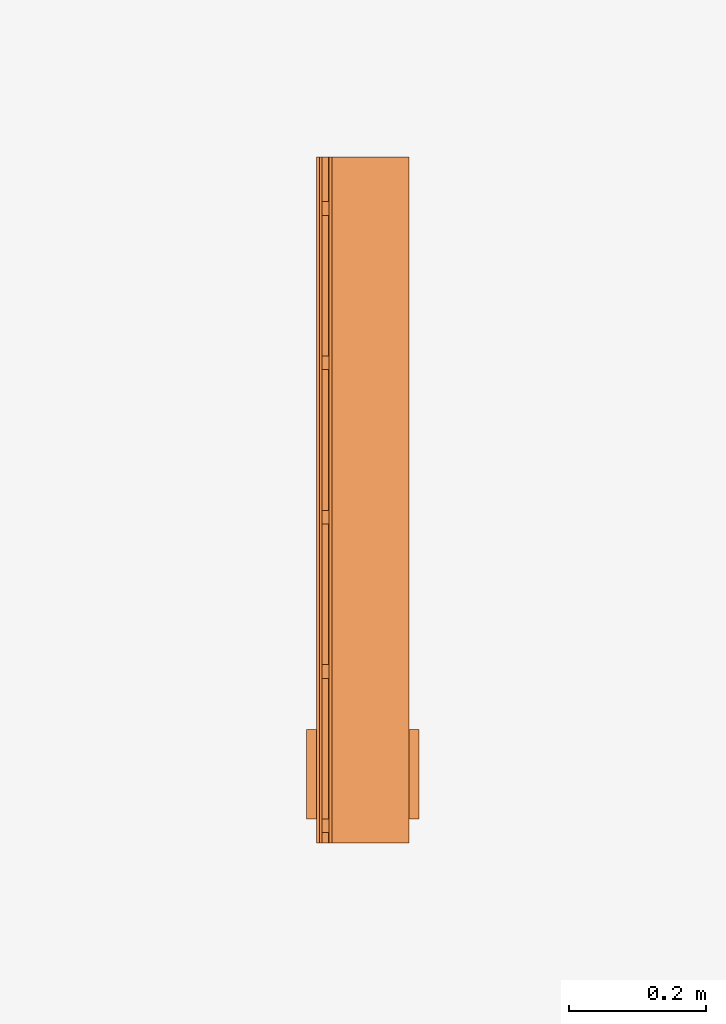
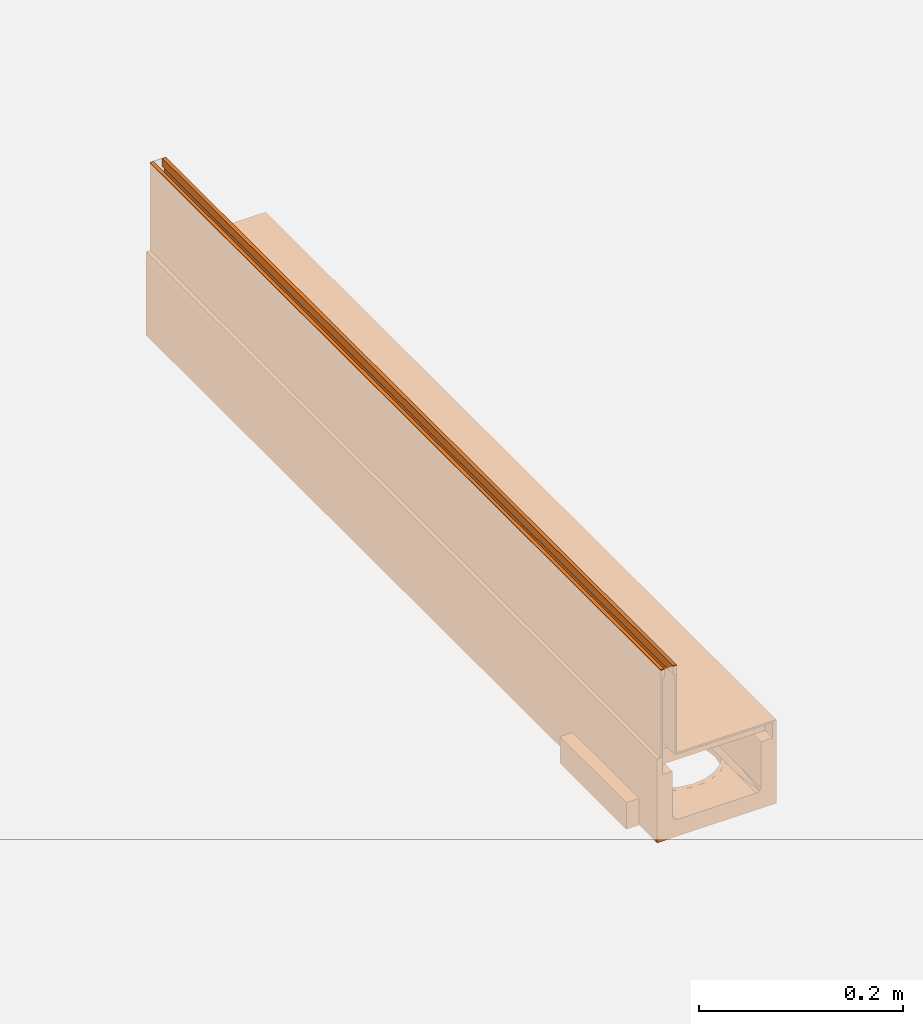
# One storey, part 2 of 2: 1 proxy.
"""IFC2X3 building model written with IfcOpenShell, lengths in millimetres."""

from ifc_helpers import new_model, entity, si_unit, converted_unit, direction, frame, origin, place, context, subcontext, project, spatial, faceted_brep, source, transform, mapped, material, material_list, element, save


model = new_model("IFC2X3")

# Units and contexts
model_context = context("Model", 3, precision=1e-06, world=origin(), true_north=direction((2.0, 6.12303176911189e-17, 1.0)))
context_of_model = context(None, 3, precision=1e-06, world=origin(), true_north=direction((2.0, 6.12303176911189e-17, 1.0)))
body_context = subcontext(model_context, "Body", "Model", "MODEL_VIEW")
ifc_project = project(units=[si_unit("LENGTHUNIT", "METRE", prefix="MILLI"), si_unit("AREAUNIT", "SQUARE_METRE", prefix="MILLI"), si_unit("VOLUMEUNIT", "CUBIC_METRE", prefix="MILLI"), converted_unit("PLANEANGLEUNIT", "DEGREE", entity("IfcRatioMeasure", 0.0174532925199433), si_unit("PLANEANGLEUNIT", "RADIAN"), dimensions=[0, 0, 0, 0, 0, 0, 0]), si_unit("TIMEUNIT", "SECOND")], contexts=[model_context, context_of_model])

# Site, building, storey
site_placement = place(None, origin())
site = spatial("IfcSite", under=ifc_project, at=site_placement, Name="Default", CompositionType="ELEMENT")
building_placement = place(site_placement, origin())
building = spatial("IfcBuilding", under=site, at=building_placement, CompositionType="ELEMENT")
storey_placement = place(building_placement, origin())
storey = spatial("IfcBuildingStorey", under=building, at=storey_placement, Name="Level 1", CompositionType="ELEMENT", Elevation=0.0)

# Proxy
ifc_material_1 = material(Name="Stainless Steel (F)")
ifc_material_2 = material(Name="Plastic, Opaque Black")
ifc_material_3 = material(Name="Vienite® Synthetic Resin Concrete")
ifc_material_list = material_list([ifc_material_1, ifc_material_2, ifc_material_3])
shared_shape = source(origin(), body_context, "Body", "Brep", [
    faceted_brep([(63.2499999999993, 15.0, -107.0), (63.2499999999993, 17.0, -109.0), (63.2499999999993, 33.0, -109.0), (63.2499999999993, 35.0, -107.0), (63.2499999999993, 17.0, -123.499999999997), (63.2499999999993, 15.0, -125.499999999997), (63.2499999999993, 33.0, -123.499999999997), (63.2499999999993, 35.0, -125.499999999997), (-61.2500000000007, 15.0, -125.499999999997), (-61.2500000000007, 17.0, -123.499999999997), (-61.2500000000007, 33.0, -123.499999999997), (-61.2500000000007, 35.0, -125.499999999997), (-61.2500000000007, 17.0, -109.0), (-61.2500000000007, 15.0, -107.0), (-61.2500000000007, 33.0, -109.0), (-61.2500000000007, 35.0, -107.0)], [[[0, 1, 2, 3]], [[4, 1, 0, 5]], [[3, 2, 6, 7]], [[6, 4, 5, 7]], [[8, 9, 10, 11]], [[12, 9, 8, 13]], [[11, 10, 14, 15]], [[14, 12, 13, 15]], [[5, 0, 13, 8]], [[7, 5, 8, 11]], [[3, 7, 11, 15]], [[0, 3, 15, 13]], [[1, 4, 9, 12]], [[14, 2, 1, 12]], [[6, 2, 14, 10]], [[9, 4, 6, 10]]]),
    faceted_brep([(63.2499999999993, 240.0, -107.0), (63.2499999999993, 242.0, -109.0), (63.2499999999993, 258.0, -109.0), (63.2499999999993, 260.0, -107.0), (63.2499999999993, 242.0, -123.499999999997), (63.2499999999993, 240.0, -125.499999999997), (63.2499999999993, 258.0, -123.499999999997), (63.2499999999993, 260.0, -125.499999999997), (-61.2500000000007, 240.0, -125.499999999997), (-61.2500000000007, 242.0, -123.499999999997), (-61.2500000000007, 258.0, -123.499999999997), (-61.2500000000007, 260.0, -125.499999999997), (-61.2500000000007, 242.0, -109.0), (-61.2500000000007, 240.0, -107.0), (-61.2500000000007, 258.0, -109.0), (-61.2500000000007, 260.0, -107.0)], [[[0, 1, 2, 3]], [[4, 1, 0, 5]], [[3, 2, 6, 7]], [[6, 4, 5, 7]], [[8, 9, 10, 11]], [[12, 9, 8, 13]], [[11, 10, 14, 15]], [[14, 12, 13, 15]], [[5, 0, 13, 8]], [[7, 5, 8, 11]], [[3, 7, 11, 15]], [[0, 3, 15, 13]], [[1, 4, 9, 12]], [[2, 1, 12, 14]], [[6, 2, 14, 10]], [[4, 6, 10, 9]]]),
    faceted_brep([(63.2499999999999, 465.0, -107.0), (63.2499999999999, 467.0, -109.0), (63.2499999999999, 483.0, -109.0), (63.2499999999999, 485.0, -107.0), (63.2499999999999, 467.0, -123.499999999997), (63.2499999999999, 465.0, -125.499999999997), (63.2499999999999, 483.0, -123.499999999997), (63.2499999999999, 485.0, -125.499999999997), (-61.2500000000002, 465.0, -125.499999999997), (-61.2500000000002, 467.0, -123.499999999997), (-61.2500000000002, 483.0, -123.499999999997), (-61.2500000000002, 485.0, -125.499999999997), (-61.2500000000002, 467.0, -109.0), (-61.2500000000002, 465.0, -107.0), (-61.2500000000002, 483.0, -109.0), (-61.2500000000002, 485.0, -107.0)], [[[0, 1, 2, 3]], [[4, 1, 0, 5]], [[3, 2, 6, 7]], [[6, 4, 5, 7]], [[8, 9, 10, 11]], [[12, 9, 8, 13]], [[11, 10, 14, 15]], [[14, 12, 13, 15]], [[5, 0, 13, 8]], [[7, 5, 8, 11]], [[3, 7, 11, 15]], [[0, 3, 15, 13]], [[1, 4, 9, 12]], [[2, 1, 12, 14]], [[6, 2, 14, 10]], [[4, 6, 10, 9]]]),
    faceted_brep([(51.9615242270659, 130.0, -185.0), (42.4264068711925, 142.426406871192, -185.0), (47.6313972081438, 127.499999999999, -185.0), (53.1259204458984, 114.235047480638, -185.0), (55.0, 100.0, -185.0), (57.9555495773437, 115.529142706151, -185.0), (60.0, 100.0, -185.0), (53.1259204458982, 85.7649525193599, -185.0), (38.8908729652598, 138.890872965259, -185.0), (0.0, 155.0, -185.0), (14.2350474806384, 153.125920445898, -185.0), (15.5291427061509, 157.955549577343, -185.0), (0.0, 160.0, -185.0), (30.0, 151.961524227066, -185.0), (27.4999999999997, 147.631397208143, -185.0), (57.9555495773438, 84.4708572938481, -185.0), (47.6313972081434, 72.4999999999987, -185.0), (38.8908729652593, 61.1091270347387, -185.0), (42.4264068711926, 57.5735931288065, -185.0), (51.961524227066, 70.0, -185.0), (30.0, 48.038475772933, -185.0), (27.4999999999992, 52.3686027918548, -185.0), (14.2350474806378, 46.8740795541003, -185.0), (0.0, 45.0, -185.0), (15.5291427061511, 42.0444504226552, -185.0), (0.0, 40.0, -185.0), (-14.2350474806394, 46.8740795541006, -185.0), (-14.2350474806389, 153.125920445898, -185.0), (-15.529142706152, 157.955549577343, -185.0), (-27.5000000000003, 147.631397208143, -185.0), (-30.0, 151.961524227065, -185.0), (-38.8908729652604, 138.890872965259, -185.0), (-42.4264068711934, 142.426406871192, -185.0), (-47.6313972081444, 127.499999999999, -185.0), (-51.9615242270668, 130.0, -185.0), (-53.1259204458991, 114.235047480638, -185.0), (-57.9555495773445, 115.52914270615, -185.0), (-55.0, 100.0, -185.0), (-60.0, 100.0, -185.0), (-53.1259204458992, 85.7649525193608, -185.0), (-42.426406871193, 57.5735931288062, -185.0), (-30.0, 48.0384757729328, -185.0), (-27.5000000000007, 52.3686027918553, -185.0), (-38.8908729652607, 61.1091270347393, -185.0), (-15.5291427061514, 42.0444504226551, -185.0), (-57.9555495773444, 84.4708572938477, -185.0), (-47.6313972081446, 72.4999999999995, -185.0), (-51.9615242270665, 70.0, -185.0), (-51.9615242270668, 130.0, -205.0), (-42.4264068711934, 142.426406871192, -205.0), (-47.6313972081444, 127.499999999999, -205.0), (-53.1259204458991, 114.235047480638, -205.0), (-55.0, 100.0, -205.0), (-57.9555495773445, 115.52914270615, -205.0), (-60.0, 100.0, -205.0), (-53.1259204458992, 85.7649525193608, -205.0), (-38.8908729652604, 138.890872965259, -205.0), (0.0, 155.0, -205.0), (-14.2350474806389, 153.125920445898, -205.0), (-15.529142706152, 157.955549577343, -205.0), (0.0, 160.0, -205.0), (-30.0, 151.961524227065, -205.0), (-27.5000000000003, 147.631397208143, -205.0), (-57.9555495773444, 84.4708572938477, -205.0), (-47.6313972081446, 72.4999999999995, -205.0), (-38.8908729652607, 61.1091270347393, -205.0), (-42.426406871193, 57.5735931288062, -205.0), (-51.9615242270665, 70.0, -205.0), (-30.0, 48.0384757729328, -205.0), (-27.5000000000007, 52.3686027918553, -205.0), (-14.2350474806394, 46.8740795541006, -205.0), (0.0, 45.0, -205.0), (-15.5291427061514, 42.0444504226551, -205.0), (0.0, 40.0, -205.0), (14.2350474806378, 46.8740795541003, -205.0), (14.2350474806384, 153.125920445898, -205.0), (15.5291427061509, 157.955549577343, -205.0), (27.4999999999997, 147.631397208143, -205.0), (30.0, 151.961524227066, -205.0), (38.8908729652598, 138.890872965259, -205.0), (42.4264068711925, 142.426406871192, -205.0), (47.6313972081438, 127.499999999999, -205.0), (51.9615242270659, 130.0, -205.0), (53.1259204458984, 114.235047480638, -205.0), (57.9555495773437, 115.529142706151, -205.0), (55.0, 100.0, -205.0), (60.0, 100.0, -205.0), (53.1259204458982, 85.7649525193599, -205.0), (42.4264068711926, 57.5735931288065, -205.0), (30.0, 48.038475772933, -205.0), (27.4999999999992, 52.3686027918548, -205.0), (38.8908729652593, 61.1091270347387, -205.0), (15.5291427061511, 42.0444504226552, -205.0), (57.9555495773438, 84.4708572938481, -205.0), (47.6313972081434, 72.4999999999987, -205.0), (51.961524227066, 70.0, -205.0)], [[[0, 1, 2, 3]], [[3, 4, 5, 0]], [[6, 5, 4, 7]], [[2, 1, 8]], [[9, 10, 11, 12]], [[13, 11, 10, 14]], [[13, 14, 8, 1]], [[15, 6, 7, 16]], [[17, 18, 19, 16]], [[16, 19, 15]], [[20, 18, 21, 22]], [[21, 18, 17]], [[22, 23, 24, 20]], [[25, 24, 23, 26]], [[27, 12, 28, 29]], [[30, 31, 29, 28]], [[31, 30, 32, 33]], [[33, 32, 34, 35]], [[36, 37, 35, 34]], [[37, 36, 38, 39]], [[40, 41, 42, 43]], [[42, 41, 44]], [[44, 25, 26, 42]], [[39, 38, 45, 46]], [[47, 40, 43, 46]], [[47, 46, 45]], [[27, 9, 12]], [[48, 49, 50, 51]], [[51, 52, 53, 48]], [[54, 53, 52, 55]], [[50, 49, 56]], [[57, 58, 59, 60]], [[61, 59, 58, 62]], [[61, 62, 56, 49]], [[63, 54, 55, 64]], [[65, 66, 67, 64]], [[64, 67, 63]], [[68, 66, 69, 70]], [[69, 66, 65]], [[70, 71, 72, 68]], [[73, 72, 71, 74]], [[75, 60, 76, 77]], [[78, 79, 77, 76]], [[79, 78, 80, 81]], [[81, 80, 82, 83]], [[84, 85, 83, 82]], [[85, 84, 86, 87]], [[88, 89, 90, 91]], [[90, 89, 92]], [[92, 73, 74, 90]], [[87, 86, 93, 94]], [[95, 88, 91, 94]], [[95, 94, 93]], [[75, 57, 60]], [[25, 44, 72, 73]], [[44, 41, 68, 72]], [[40, 47, 67, 66]], [[41, 40, 66, 68]], [[47, 45, 63, 67]], [[54, 63, 45, 38]], [[38, 36, 53, 54]], [[36, 34, 48, 53]], [[32, 30, 61, 49]], [[34, 32, 49, 48]], [[30, 28, 59, 61]], [[60, 59, 28, 12]], [[12, 11, 76, 60]], [[11, 13, 78, 76]], [[1, 0, 82, 80]], [[13, 1, 80, 78]], [[0, 5, 84, 82]], [[86, 84, 5, 6]], [[6, 15, 93, 86]], [[15, 19, 95, 93]], [[18, 20, 89, 88]], [[19, 18, 88, 95]], [[20, 24, 92, 89]], [[73, 92, 24, 25]], [[3, 83, 85, 4]], [[2, 81, 83, 3]], [[14, 77, 79, 8]], [[8, 79, 81, 2]], [[10, 75, 77, 14]], [[75, 10, 9, 57]], [[27, 58, 57, 9]], [[29, 62, 58, 27]], [[33, 50, 56, 31]], [[31, 56, 62, 29]], [[35, 51, 50, 33]], [[51, 35, 37, 52]], [[39, 55, 52, 37]], [[46, 64, 55, 39]], [[42, 69, 65, 43]], [[43, 65, 64, 46]], [[26, 70, 69, 42]], [[70, 26, 23, 71]], [[22, 74, 71, 23]], [[21, 90, 74, 22]], [[16, 94, 91, 17]], [[17, 91, 90, 21]], [[7, 87, 94, 16]], [[87, 7, 4, 85]]]),
    faceted_brep([(-67.5, 35.0, -205.0), (-82.0, 35.0, -205.0), (-82.0, 165.0, -205.0), (-67.5, 165.0, -205.0), (-67.5, 165.0, -173.0), (-82.0, 165.0, -173.0), (-82.0, 35.0, -173.0), (-67.5, 35.0, -173.0)], [[[0, 1, 2, 3]], [[4, 5, 6, 7]], [[5, 2, 1, 6]], [[4, 3, 2, 5]], [[7, 0, 3, 4]], [[6, 1, 0, 7]]]),
    faceted_brep([(82.0, 35.0, -173.0), (82.0, 165.0, -173.0), (67.4999999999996, 165.0, -173.0), (67.4999999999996, 35.0, -173.0), (82.0, 165.0, -205.0), (82.0, 35.0, -205.0), (67.4999999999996, 35.0, -205.0), (67.4999999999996, 165.0, -205.0)], [[[0, 1, 2, 3]], [[4, 5, 6, 7]], [[3, 6, 5, 0]], [[7, 6, 3, 2]], [[1, 4, 7, 2]], [[5, 4, 1, 0]]]),
    faceted_brep([(-47.2500000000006, 0.0, -10.0), (-47.2500000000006, 0.0, -107.0), (-45.2500000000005, 0.0, -105.0), (-45.2500000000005, 0.0, 0.0), (-49.2500000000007, 0.0, 0.0), (-49.2500000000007, 0.0, -10.0), (63.2499999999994, 0.0, -107.0), (63.2499999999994, 0.0, -105.0), (-45.2500000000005, 1000.0, -105.0), (63.2499999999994, 1000.0, -105.0), (63.2499999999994, 1000.0, -107.0), (-47.2500000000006, 1000.0, -107.0), (-47.2500000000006, 1000.0, -10.0), (-45.2500000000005, 1000.0, 0.0), (-49.2500000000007, 1000.0, -10.0), (-49.2500000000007, 1000.0, 0.0)], [[[0, 1, 2, 3]], [[4, 5, 0, 3]], [[6, 7, 2, 1]], [[8, 9, 10, 11]], [[12, 13, 8, 11]], [[12, 14, 15, 13]], [[0, 5, 14, 12]], [[11, 1, 0, 12]], [[6, 1, 11, 10]], [[9, 7, 6, 10]], [[8, 2, 7, 9]], [[3, 2, 8, 13]], [[15, 4, 3, 13]], [[5, 4, 15, 14]]]),
    faceted_brep([(-59.2500000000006, 1000.0, 0.0), (-59.2500000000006, 1000.0, -10.0), (-61.2500000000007, 1000.0, -10.0), (-63.2500000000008, 1000.0, 0.0), (-63.2500000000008, 1000.0, -125.499999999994), (-61.2500000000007, 1000.0, -125.499999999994), (-61.2500000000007, 0.0, -10.0), (-63.2500000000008, 0.0, 0.0), (-63.2500000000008, 0.0, -125.499999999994), (-61.2500000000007, 0.0, -125.499999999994), (-59.2500000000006, 0.0, 0.0), (-59.2500000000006, 0.0, -10.0)], [[[0, 1, 2, 3]], [[4, 3, 2, 5]], [[6, 7, 8, 9]], [[10, 7, 6, 11]], [[9, 8, 4, 5]], [[6, 9, 5, 2]], [[11, 6, 2, 1]], [[10, 11, 1, 0]], [[3, 7, 10, 0]], [[4, 8, 7, 3]]]),
    faceted_brep([(63.2499999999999, 690.0, -107.0), (63.2499999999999, 692.0, -109.0), (63.2499999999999, 708.0, -109.0), (63.2499999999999, 710.0, -107.0), (63.2499999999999, 692.0, -123.499999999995), (63.2499999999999, 690.0, -125.499999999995), (63.2499999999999, 708.0, -123.499999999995), (63.2499999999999, 710.0, -125.499999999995), (-61.2500000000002, 690.0, -125.499999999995), (-61.2500000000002, 692.0, -123.499999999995), (-61.2500000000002, 708.0, -123.499999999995), (-61.2500000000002, 710.0, -125.499999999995), (-61.2500000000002, 692.0, -109.0), (-61.2500000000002, 690.0, -107.0), (-61.2500000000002, 708.0, -109.0), (-61.2500000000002, 710.0, -107.0)], [[[0, 1, 2, 3]], [[4, 1, 0, 5]], [[3, 2, 6, 7]], [[6, 4, 5, 7]], [[8, 9, 10, 11]], [[12, 9, 8, 13]], [[11, 10, 14, 15]], [[14, 12, 13, 15]], [[5, 0, 13, 8]], [[11, 7, 5, 8]], [[3, 7, 11, 15]], [[13, 0, 3, 15]], [[1, 4, 9, 12]], [[2, 1, 12, 14]], [[6, 2, 14, 10]], [[4, 6, 10, 9]]]),
    faceted_brep([(63.2500000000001, 915.0, -107.0), (63.2500000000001, 917.0, -109.0), (63.2500000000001, 933.0, -109.0), (63.2500000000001, 935.0, -107.0), (63.2500000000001, 917.0, -123.499999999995), (63.2500000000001, 915.0, -125.499999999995), (63.2500000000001, 933.0, -123.499999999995), (63.2500000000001, 935.0, -125.499999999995), (-61.2499999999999, 915.0, -125.499999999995), (-61.2499999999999, 917.0, -123.499999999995), (-61.2499999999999, 933.0, -123.499999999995), (-61.2499999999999, 935.0, -125.499999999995), (-61.2499999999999, 917.0, -109.0), (-61.2499999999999, 915.0, -107.0), (-61.2499999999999, 933.0, -109.0), (-61.2499999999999, 935.0, -107.0)], [[[0, 1, 2, 3]], [[4, 1, 0, 5]], [[3, 2, 6, 7]], [[6, 4, 5, 7]], [[8, 9, 10, 11]], [[12, 9, 8, 13]], [[11, 10, 14, 15]], [[14, 12, 13, 15]], [[5, 0, 13, 8]], [[11, 7, 5, 8]], [[3, 7, 11, 15]], [[13, 0, 3, 15]], [[1, 4, 9, 12]], [[2, 1, 12, 14]], [[6, 2, 14, 10]], [[4, 6, 10, 9]]]),
    faceted_brep([(-53.1651104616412, 127.756221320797, -185.0), (-45.0, 139.631143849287, -185.0), (-60.0, 99.9448741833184, -185.0), (-58.2655781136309, 114.266969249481, -185.0), (-45.0, 99.9448741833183, -185.0), (-58.2655781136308, 85.6227791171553, -185.0), (-45.0, 60.2586045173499, -185.0), (-53.1651104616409, 72.1335270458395, -185.0), (34.1631531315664, 149.269097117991, -185.0), (45.0, 139.631143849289, -185.0), (45.0, 193.404159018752, -185.0), (45.0, 247.17732754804, -185.0), (-34.1631531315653, 149.269097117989, -185.0), (-21.3303487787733, 156.025318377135, -185.0), (-45.0, 1000.0, -185.0), (-45.0, 960.9615556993, -185.0), (21.3303487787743, 156.025318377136, -185.0), (45.0, 1000.0, -185.0), (7.25133424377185, 159.505080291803, -185.0), (-7.25133424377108, 159.505080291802, -185.0), (67.4999999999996, 0.0, -105.0), (63.2499999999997, 0.0, -105.0), (63.2499999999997, 0.0, -125.500000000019), (67.5, 0.0, -205.0), (50.0, 0.0, -125.500000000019), (50.0, 0.0, -180.0), (48.5355339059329, 0.0, -183.535533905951), (45.0, 0.0, -185.0), (-45.0, 0.0, -185.0), (-67.5, 0.0, -205.0), (-50.0, 0.0, -180.0), (-50.0, 0.0, -125.500000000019), (-63.2499999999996, 0.0, -125.500000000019), (-63.2499999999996, 0.0, -105.0), (-67.5, 0.0, -105.0), (-48.5355339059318, 0.0, -183.535533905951), (-67.5, 1000.0, -105.0), (-63.2499999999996, 1000.0, -105.0), (-63.2499999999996, 1000.0, -125.500000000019), (-67.5, 1000.0, -205.0), (-50.0, 1000.0, -125.500000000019), (-50.0, 1000.0, -180.0), (-48.5355339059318, 1000.0, -183.535533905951), (67.5, 1000.0, -205.0), (50.0, 1000.0, -180.0), (50.0, 1000.0, -125.500000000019), (63.2499999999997, 1000.0, -125.500000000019), (63.2499999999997, 1000.0, -105.0), (67.4999999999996, 1000.0, -105.0), (48.5355339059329, 1000.0, -183.535533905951), (50.0, 960.961555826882, -180.0), (50.0, 937.499994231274, -180.0), (45.0, 60.2586045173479, -185.0), (45.0, 39.0384425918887, -185.0), (50.0, 39.0384441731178, -180.0), (50.0, 62.5000057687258, -180.0), (45.0, 99.9448741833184, -185.0), (50.0, 93.7500086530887, -180.0), (50.0, 124.999996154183, -180.0), (45.0, 960.961490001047, -185.0), (45.0, 569.815571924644, -185.0), (45.0, 516.042556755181, -185.0), (50.0, 531.249987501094, -180.0), (50.0, 562.499990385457, -180.0), (50.0, 218.749989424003, -180.0), (50.0, 187.49998653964, -180.0), (45.0, 408.49637305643, -185.0), (50.0, 375.000003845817, -180.0), (50.0, 406.25000673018, -180.0), (50.0, 437.500009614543, -180.0), (50.0, 249.999992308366, -180.0), (50.0, 281.249995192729, -180.0), (50.0, 812.50001346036, -180.0), (45.0, 838.680801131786, -185.0), (45.0, 784.907785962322, -185.0), (50.0, 781.250010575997, -180.0), (45.0, 354.723357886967, -185.0), (50.0, 312.499998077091, -180.0), (50.0, 343.750000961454, -180.0), (45.0, 926.707653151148, -185.0), (50.0, 906.249991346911, -180.0), (45.0, 462.269388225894, -185.0), (50.0, 468.750012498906, -180.0), (50.0, 500.0, -180.0), (45.0, 677.361755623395, -185.0), (50.0, 687.500001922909, -180.0), (50.0, 718.750004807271, -180.0), (45.0, 623.588587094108, -185.0), (50.0, 593.74999326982, -180.0), (50.0, 624.999996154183, -180.0), (50.0, 656.249999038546, -180.0), (45.0, 892.453816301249, -185.0), (50.0, 875.000003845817, -180.0), (50.0, 750.000007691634, -180.0), (45.0, 731.134770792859, -185.0), (50.0, 843.750016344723, -180.0), (50.0, 156.249983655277, -180.0), (45.0, 300.950342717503, -185.0), (45.0, 435.382957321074, -185.0), (21.3303487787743, 43.8644299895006, -185.0), (7.25133424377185, 40.3846680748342, -185.0), (34.1631531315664, 50.6206512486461, -185.0), (-7.25133424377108, 40.3846680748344, -185.0), (-21.3303487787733, 43.8644299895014, -185.0), (-34.1631531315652, 50.6206512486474, -185.0), (-45.0, 39.0384425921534, -185.0), (-50.0, 906.250002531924, -180.0), (-50.0, 874.999997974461, -180.0), (-45.0, 892.453890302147, -185.0), (-45.0, 926.707723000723, -185.0), (-50.0, 125.000002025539, -180.0), (-50.0, 156.250006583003, -180.0), (-45.0, 193.404194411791, -185.0), (-50.0, 187.499994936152, -180.0), (-50.0, 39.0384625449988, -180.0), (-50.0, 62.5000091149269, -180.0), (-50.0, 843.750009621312, -180.0), (-45.0, 838.680835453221, -185.0), (-50.0, 406.250010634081, -180.0), (-50.0, 375.000006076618, -180.0), (-45.0, 408.496413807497, -185.0), (-50.0, 437.49999898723, -180.0), (-50.0, 750.000012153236, -180.0), (-45.0, 731.134734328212, -185.0), (-45.0, 784.907784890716, -185.0), (-50.0, 781.250000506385, -180.0), (-45.0, 354.72335895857, -185.0), (-50.0, 343.750001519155, -180.0), (-50.0, 312.500013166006, -180.0), (-45.0, 247.177249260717, -185.0), (-50.0, 250.000004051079, -180.0), (-50.0, 218.749999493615, -180.0), (-50.0, 562.500017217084, -180.0), (-50.0, 531.250012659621, -180.0), (-45.0, 569.815569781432, -185.0), (-50.0, 593.750005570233, -180.0), (-50.0, 500.000008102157, -180.0), (-50.0, 468.750003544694, -180.0), (-45.0, 462.269464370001, -185.0), (-45.0, 516.042514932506, -185.0), (-45.0, 300.950304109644, -185.0), (-50.0, 281.250008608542, -180.0), (-45.0, 623.588624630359, -185.0), (-50.0, 625.000010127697, -180.0), (-50.0, 93.7499974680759, -180.0), (-50.0, 937.500007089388, -180.0), (-50.0, 718.750007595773, -180.0), (-45.0, 677.361679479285, -185.0), (-50.0, 656.25001468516, -180.0), (-50.0, 812.500005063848, -180.0), (-50.0, 960.961553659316, -180.0), (-50.0, 687.500003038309, -180.0), (-15.5291427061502, 41.9893246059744, -205.0), (0.0, 39.9448741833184, -205.0), (-30.0, 47.9833499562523, -205.0), (-57.9555495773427, 84.4157314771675, -205.0), (-51.961524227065, 69.9448741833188, -205.0), (-42.4264068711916, 57.5184673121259, -205.0), (-60.0, 99.9448741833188, -205.0), (15.5291427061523, 41.9893246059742, -205.0), (30.0, 47.9833499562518, -205.0), (42.426406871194, 57.5184673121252, -205.0), (51.9615242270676, 69.944874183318, -205.0), (57.9555495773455, 84.4157314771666, -205.0), (60.0, 99.9448741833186, -205.0), (-57.9555495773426, 115.47401688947, -205.0), (-51.9615242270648, 129.944874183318, -205.0), (-42.4264068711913, 142.371281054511, -205.0), (-30.0, 151.906398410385, -205.0), (-15.5291427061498, 157.900423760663, -205.0), (0.0, 159.944874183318, -205.0), (51.9615242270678, 129.944874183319, -205.0), (42.4264068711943, 142.371281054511, -205.0), (57.9555495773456, 115.47401688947, -205.0), (15.5291427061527, 157.900423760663, -205.0), (30.0, 151.906398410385, -205.0), (53.1652982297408, 127.755862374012, -185.0), (58.265564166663, 114.267025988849, -185.0), (60.0, 99.9448741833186, -185.0), (53.1652982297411, 72.1338859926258, -185.0), (58.2655641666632, 85.6227223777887, -185.0)], [[[0, 1, 2, 3]], [[1, 4, 5, 2]], [[6, 7, 5, 4]], [[8, 9, 10, 11]], [[12, 13, 14, 15]], [[16, 17, 18]], [[17, 16, 8]], [[14, 19, 18, 17]], [[19, 14, 13]], [[20, 21, 22, 23]], [[22, 24, 25, 23]], [[23, 25, 26]], [[26, 27, 23]], [[23, 27, 28, 29]], [[30, 31, 32, 29]], [[32, 33, 34, 29]], [[28, 35, 29]], [[30, 29, 35]], [[36, 37, 38, 39]], [[38, 40, 41, 39]], [[39, 41, 42]], [[42, 14, 39]], [[39, 14, 17, 43]], [[44, 45, 46, 43]], [[46, 47, 48, 43]], [[17, 49, 43]], [[44, 43, 49]], [[21, 20, 48, 47]], [[46, 22, 21, 47]], [[24, 22, 46, 45]], [[25, 24, 45]], [[45, 44, 50, 51]], [[52, 53, 54, 55]], [[56, 57, 58, 9]], [[49, 17, 59]], [[60, 61, 62, 63]], [[50, 44, 49]], [[64, 11, 10, 65]], [[66, 67, 68, 69]], [[70, 71, 11, 64]], [[72, 73, 74, 75]], [[76, 77, 78, 67]], [[51, 79, 80]], [[81, 82, 83, 61]], [[84, 85, 86]], [[87, 88, 89, 90]], [[88, 87, 60, 63]], [[84, 87, 90, 85]], [[91, 92, 80, 79]], [[86, 93, 94, 84]], [[73, 95, 92, 91]], [[50, 49, 59]], [[51, 50, 59, 79]], [[96, 65, 10, 9]], [[53, 27, 26]], [[26, 25, 54]], [[54, 53, 26]], [[97, 11, 71, 77]], [[76, 97, 77]], [[93, 75, 74, 94]], [[69, 81, 98, 66]], [[57, 56, 52, 55]], [[9, 58, 96]], [[82, 81, 69]], [[73, 72, 95]], [[61, 83, 62]], [[76, 67, 66]], [[27, 99, 100]], [[101, 99, 27, 53]], [[100, 102, 28, 27]], [[28, 102, 103]], [[104, 6, 105, 28]], [[103, 104, 28]], [[106, 107, 108, 109]], [[110, 4, 1, 111]], [[15, 14, 42]], [[112, 113, 111, 1]], [[35, 105, 114]], [[114, 105, 6, 115]], [[107, 116, 117, 108]], [[118, 119, 120, 121]], [[122, 123, 124, 125]], [[126, 119, 127, 128]], [[129, 130, 131, 112]], [[132, 133, 134, 135]], [[136, 137, 138, 139]], [[129, 140, 141, 130]], [[133, 136, 139, 134]], [[142, 143, 135, 134]], [[6, 4, 144, 115]], [[145, 106, 109, 15]], [[146, 147, 123, 122]], [[142, 147, 148, 143]], [[124, 117, 149, 125]], [[145, 15, 150]], [[41, 150, 42]], [[42, 150, 15]], [[114, 30, 35]], [[35, 28, 105]], [[140, 126, 128, 141]], [[121, 120, 138, 137]], [[126, 120, 119]], [[151, 148, 147, 146]], [[131, 113, 112]], [[116, 149, 117]], [[4, 110, 144]], [[40, 31, 30, 114]], [[32, 31, 40, 38]], [[37, 33, 32, 38]], [[36, 34, 33, 37]], [[29, 34, 36, 39]], [[29, 152, 153, 23]], [[152, 29, 154]], [[155, 156, 29]], [[157, 154, 29]], [[156, 157, 29]], [[29, 158, 155]], [[23, 159, 160]], [[159, 23, 153]], [[23, 160, 161]], [[161, 162, 23]], [[163, 164, 23]], [[162, 163, 23]], [[23, 164, 43]], [[165, 158, 39]], [[166, 165, 39]], [[167, 39, 168]], [[39, 167, 166]], [[169, 168, 39]], [[170, 169, 39, 43]], [[158, 29, 39]], [[171, 172, 43]], [[173, 171, 43]], [[174, 170, 43]], [[175, 43, 172]], [[43, 175, 174]], [[173, 43, 164]], [[20, 23, 43, 48]], [[176, 177, 178, 179]], [[9, 176, 179]], [[179, 178, 180]], [[179, 52, 56, 9]], [[2, 158, 3]], [[3, 165, 0]], [[12, 1, 167]], [[166, 1, 0]], [[13, 12, 168]], [[165, 166, 0]], [[3, 158, 165]], [[170, 19, 169]], [[13, 168, 169]], [[168, 12, 167]], [[1, 166, 167]], [[13, 169, 19]], [[18, 174, 16]], [[16, 175, 8]], [[176, 9, 171]], [[173, 177, 176]], [[172, 9, 8]], [[177, 164, 178]], [[174, 175, 16]], [[18, 170, 174]], [[176, 171, 173]], [[171, 9, 172]], [[8, 175, 172]], [[177, 173, 164]], [[19, 170, 18]], [[178, 164, 180]], [[180, 163, 179]], [[101, 52, 161]], [[162, 52, 179]], [[99, 101, 160]], [[163, 162, 179]], [[180, 164, 163]], [[153, 100, 159]], [[99, 160, 159]], [[160, 101, 161]], [[52, 162, 161]], [[99, 159, 100]], [[102, 152, 103]], [[103, 154, 104]], [[7, 6, 156]], [[155, 5, 7]], [[157, 6, 104]], [[5, 158, 2]], [[152, 154, 103]], [[102, 153, 152]], [[7, 156, 155]], [[156, 6, 157]], [[104, 154, 157]], [[5, 155, 158]], [[100, 153, 102]], [[8, 11, 97, 76]], [[8, 76, 66, 98]], [[8, 98, 81, 61]], [[8, 61, 60, 87]], [[8, 87, 84, 94]], [[8, 94, 74, 73]], [[8, 73, 91, 79]], [[8, 79, 59, 17]], [[12, 15, 109, 108]], [[12, 108, 117, 124]], [[12, 124, 123, 147]], [[12, 147, 142, 134]], [[12, 134, 139, 138]], [[12, 138, 120, 126]], [[12, 126, 140, 129]], [[12, 129, 112, 1]], [[45, 51, 80, 92]], [[45, 92, 95, 72]], [[45, 72, 75, 93]], [[45, 93, 86, 85]], [[45, 85, 90, 89]], [[45, 89, 88, 63]], [[45, 63, 62, 83]], [[45, 83, 82, 69]], [[45, 69, 68, 67]], [[45, 67, 78, 77]], [[45, 77, 71, 70]], [[45, 70, 64, 65]], [[45, 65, 96, 58]], [[45, 58, 57, 55]], [[45, 55, 54, 25]], [[101, 53, 52]], [[40, 114, 115, 144]], [[40, 144, 110, 111]], [[40, 111, 113, 131]], [[40, 131, 130, 141]], [[40, 141, 128, 127]], [[40, 127, 119, 118]], [[40, 118, 121, 137]], [[40, 137, 136, 133]], [[40, 133, 132, 135]], [[40, 135, 143, 148]], [[40, 148, 151, 146]], [[40, 146, 122, 125]], [[40, 125, 149, 116]], [[40, 116, 107, 106]], [[40, 106, 145, 150]], [[40, 150, 41]]]),
])
proxy_placement = place(storey_placement, frame((0.0, -230.0, 0.0)))
element("IfcBuildingElementProxy", 1, at=proxy_placement, inside=storey, material=ifc_material_list, Name="Civil-Drainage-Channel-ACO-MultiDrain-M100DS-Brickslot-Channel-System:24111 - No 0100V Constant Depth Outlet Channel - 1000mm LG - Invert Depth 80mm:24111 - No 0100V Constant Depth Outlet Channel - 1000mm LG - Invert Depth 80mm", ObjectType="24111 - No 0100V Constant Depth Outlet Channel - 1000mm LG - Invert Depth 80mm", CompositionType="ELEMENT", context=body_context, shape_type="MappedRepresentation", body=[
    mapped(shared_shape, transform((0.0, 0.0, 0.0), scale=1.0)),
])

save(model, "model.ifc")
